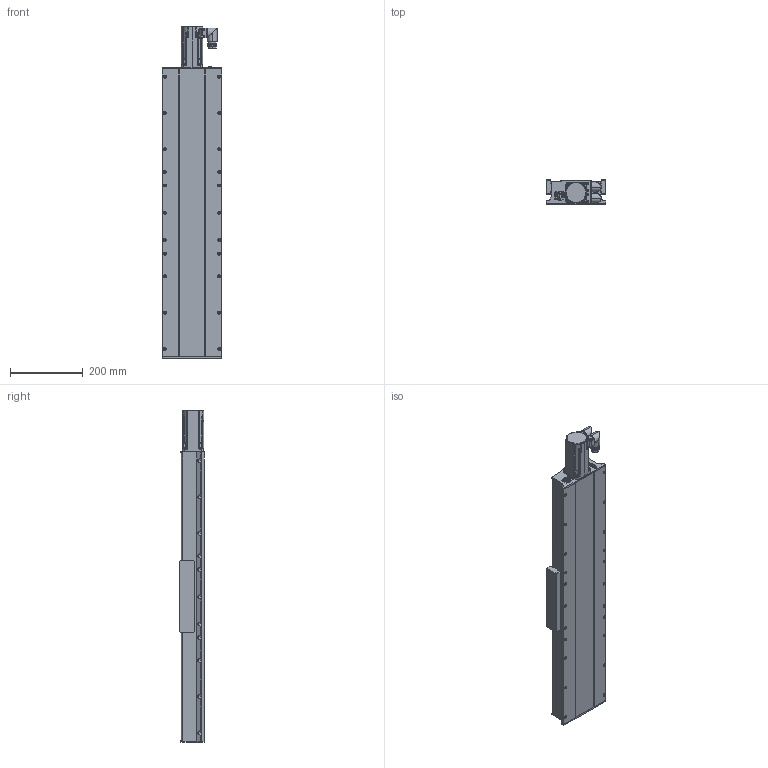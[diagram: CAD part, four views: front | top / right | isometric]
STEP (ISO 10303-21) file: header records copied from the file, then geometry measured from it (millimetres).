
FILE_DESCRIPTION((''),'2;1');
FILE_NAME('WEB_PROJEKT_PLT165_AC_00011320_ASM','2016-08-26T',('profile'),(''),'PRO/ENGINEER BY PARAMETRIC TECHNOLOGY CORPORATION, 2015280','PRO/ENGINEER BY PARAMETRIC TECHNOLOGY CORPORATION, 2015280','');
FILE_SCHEMA(('CONFIG_CONTROL_DESIGN'));
Products named in the file (8): GRUNDPLATTE_500_______00011321; WEB_PROJEKT_PLT165_SC_00010523; 789000_010_10_LOGO_30_00011080; DANAHER-AKM22X-ACBNR-_00011369; KT_9POL_SUB_D_STECKER; KT_SECHSKANTB_DA_M3_D_00012278; D912M4L12_SW__________00010919; WEB_PROJEKT_PLT165_AC_00011320_ASM
Assembly tree (12 placements, depth 2):
  WEB_PROJEKT_PLT165_AC_00011320_ASM
    GRUNDPLATTE_500_______00011321
    WEB_PROJEKT_PLT165_SC_00010523
    789000_010_10_LOGO_30_00011080  x2
    DANAHER-AKM22X-ACBNR-_00011369
    KT_9POL_SUB_D_STECKER
    KT_SECHSKANTB_DA_M3_D_00012278  x2
    D912M4L12_SW__________00010919  x4
Bounding box: 165 x 68 x 914.4 mm (x, y, z)
Volume: 8303782.8 mm3; surface area: 537673.3 mm2
Topology: 12 solids, 48 shells, 2377 faces, 5960 edges, 3708 vertices
Faces by surface type: plane 751, cylinder 579, extrusion 544, cone 246, bspline 149, torus 108
Entity records: 71709 total; most frequent: CARTESIAN_POINT 27848, ORIENTED_EDGE 9276, DIRECTION 8326, EDGE_CURVE 4737, AXIS2_PLACEMENT_3D 3002, VERTEX_POINT 2942, VECTOR 2322, EDGE_LOOP 2099
